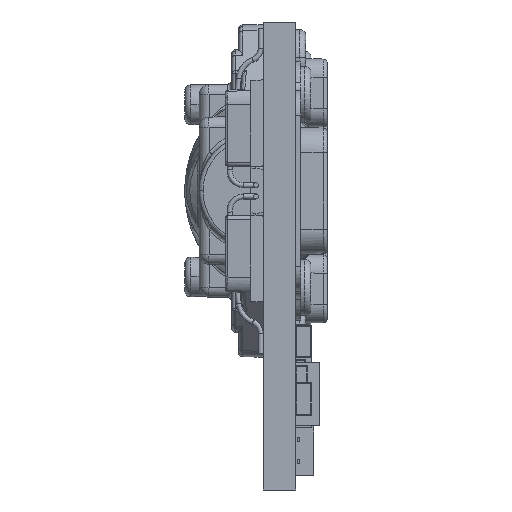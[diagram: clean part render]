
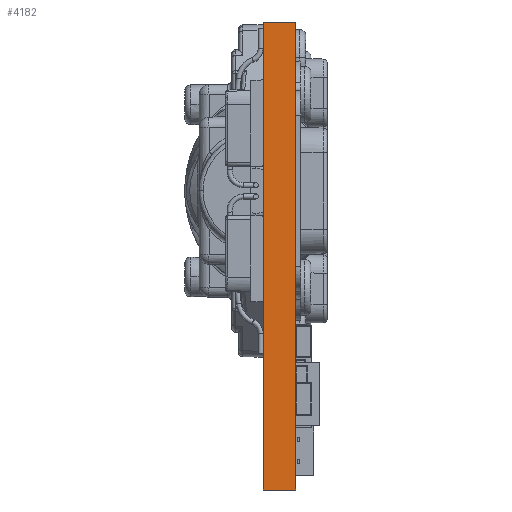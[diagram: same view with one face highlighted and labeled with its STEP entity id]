
A CAD part, left-side view. The second image highlights one B-rep face of the part: STEP entity #4182.
In plain terms, the highlighted planar face has unit normal (-1, 0, 0).
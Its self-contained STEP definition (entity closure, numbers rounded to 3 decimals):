
#1616 = ORIENTED_EDGE ( 'NONE', *, *, #68067, .T. ) ;
#1759 = ORIENTED_EDGE ( 'NONE', *, *, #29901, .F. ) ;
#2456 = DIRECTION ( 'NONE',  ( 0., 0., -1. ) ) ;
#2928 = LINE ( 'NONE', #19661, #28103 ) ;
#3470 = VECTOR ( 'NONE', #2456, 1000. ) ;
#4182 = ADVANCED_FACE ( 'NONE', ( #39892 ), #38023, .T. ) ;
#6361 = VERTEX_POINT ( 'NONE', #6470 ) ;
#6470 = CARTESIAN_POINT ( 'NONE',  ( -16.05, 3.15, -14.7 ) ) ;
#9314 = DIRECTION ( 'NONE',  ( 0., 0., 1. ) ) ;
#10031 = ORIENTED_EDGE ( 'NONE', *, *, #54814, .F. ) ;
#12344 = VECTOR ( 'NONE', #13409, 1000. ) ;
#13409 = DIRECTION ( 'NONE',  ( 0., 0., 1. ) ) ;
#17321 = CARTESIAN_POINT ( 'NONE',  ( -16.05, 1.55, -14.7 ) ) ;
#18744 = LINE ( 'NONE', #71320, #3470 ) ;
#19661 = CARTESIAN_POINT ( 'NONE',  ( -16.05, 0.36, 8.3 ) ) ;
#21330 = VERTEX_POINT ( 'NONE', #17321 ) ;
#21408 = DIRECTION ( 'NONE',  ( 0., 1., 0. ) ) ;
#21993 = CARTESIAN_POINT ( 'NONE',  ( -16.05, 3.15, 8.3 ) ) ;
#25117 = VERTEX_POINT ( 'NONE', #44252 ) ;
#25447 = DIRECTION ( 'NONE',  ( 0., 1., 0. ) ) ;
#25448 = EDGE_LOOP ( 'NONE', ( #1616, #10031, #26369, #1759 ) ) ;
#26155 = CARTESIAN_POINT ( 'NONE',  ( -16.05, 0.36, -14.7 ) ) ;
#26369 = ORIENTED_EDGE ( 'NONE', *, *, #43066, .F. ) ;
#28103 = VECTOR ( 'NONE', #25447, 1000. ) ;
#29901 = EDGE_CURVE ( 'NONE', #25117, #21330, #18744, .T. ) ;
#34273 = VECTOR ( 'NONE', #21408, 1000. ) ;
#38023 = PLANE ( 'NONE',  #40244 ) ;
#39892 = FACE_OUTER_BOUND ( 'NONE', #25448, .T. ) ;
#40244 = AXIS2_PLACEMENT_3D ( 'NONE', #26155, #43776, #9314 ) ;
#42970 = LINE ( 'NONE', #54419, #12344 ) ;
#43066 = EDGE_CURVE ( 'NONE', #21330, #6361, #47783, .T. ) ;
#43776 = DIRECTION ( 'NONE',  ( -1., 0., 0. ) ) ;
#44252 = CARTESIAN_POINT ( 'NONE',  ( -16.05, 1.55, 8.3 ) ) ;
#47783 = LINE ( 'NONE', #55910, #34273 ) ;
#54419 = CARTESIAN_POINT ( 'NONE',  ( -16.05, 3.15, -14.7 ) ) ;
#54814 = EDGE_CURVE ( 'NONE', #6361, #71835, #42970, .T. ) ;
#55910 = CARTESIAN_POINT ( 'NONE',  ( -16.05, 0.36, -14.7 ) ) ;
#68067 = EDGE_CURVE ( 'NONE', #25117, #71835, #2928, .T. ) ;
#71320 = CARTESIAN_POINT ( 'NONE',  ( -16.05, 1.55, 8.3 ) ) ;
#71835 = VERTEX_POINT ( 'NONE', #21993 ) ;
